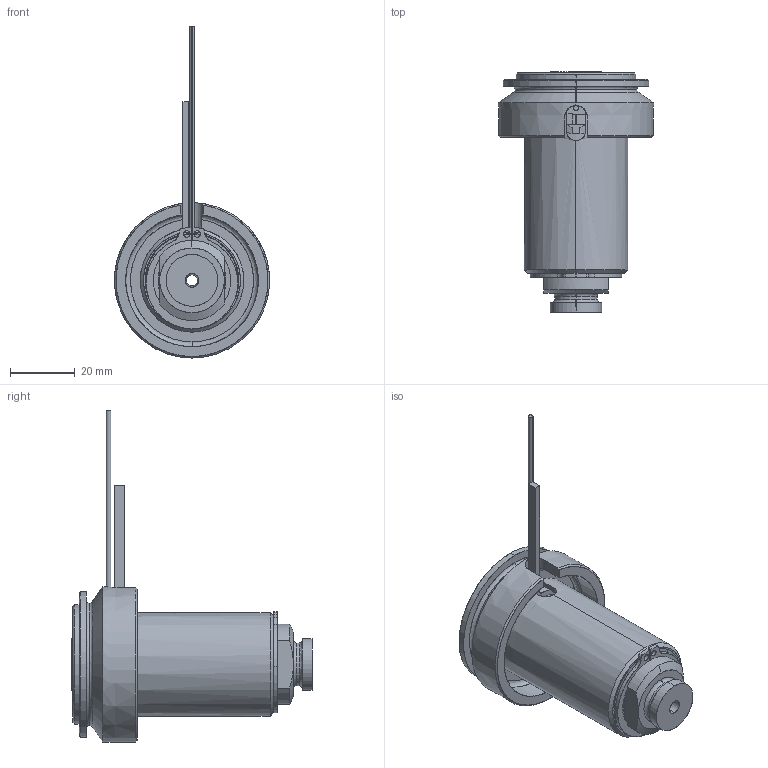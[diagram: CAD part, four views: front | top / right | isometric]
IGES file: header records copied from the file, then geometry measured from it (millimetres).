
Start section: SolidWorks IGES file using analytic representation for surfaces
Global section: file name: C:\Documents and Settings\ws-20\Desktop\TEMPORANEA\UGBE5001-M-A-3 [Ød-3.5 P-0 ØC-13].IGS; native system: SolidWorks 2012; preprocessor: SolidWorks 2012; author: ws-20; date: 120306.161313; units: millimetre
Bounding box: 48 x 74.25 x 102.65 mm (x, y, z)
Surface area: 29570.2 mm2 (no closed solid volume)
Topology: 0 solids, 0 shells, 110 faces, 2104 edges, 2104 vertices
Faces by surface type: revolution 62, bspline 48
